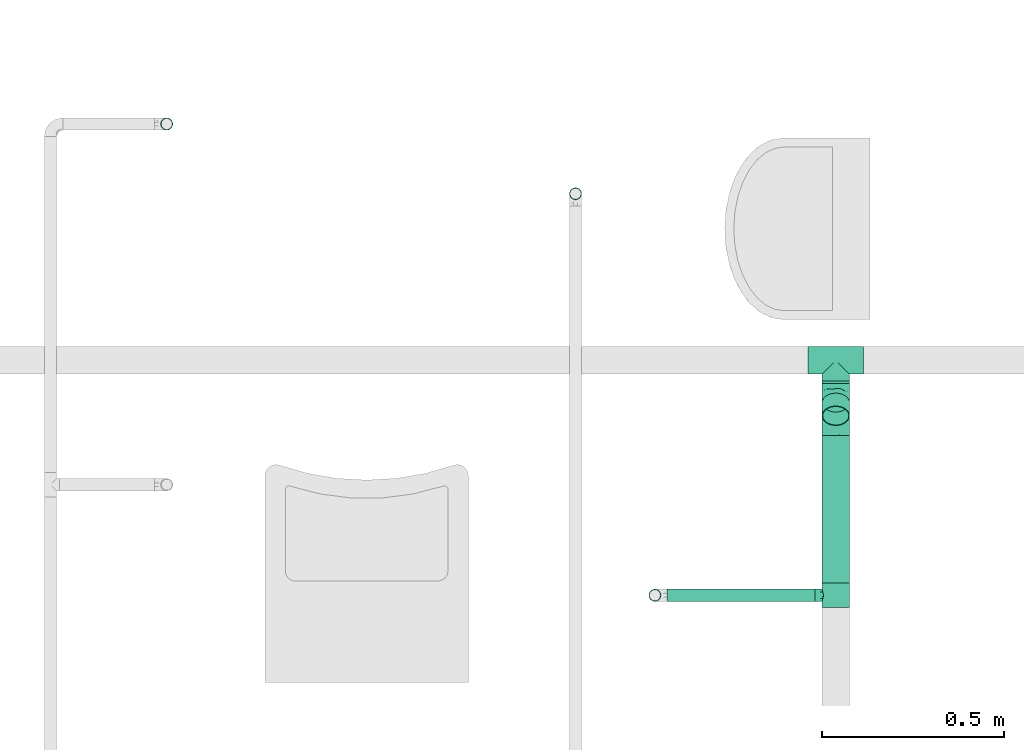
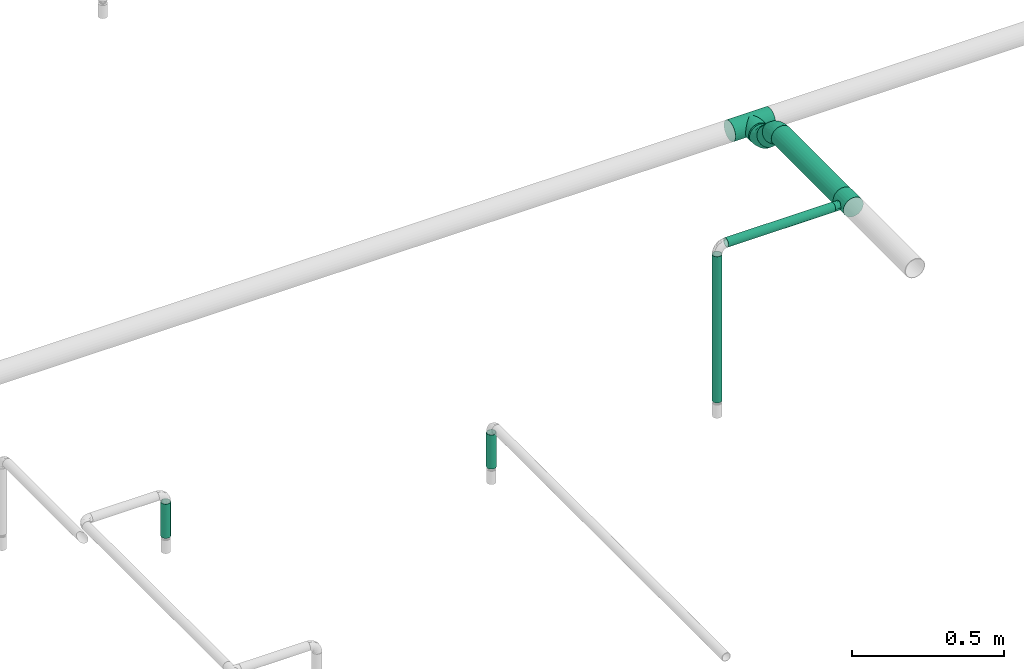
# One storey, part 11 of 95: 7 flow segments, 4 flow fittings.
"""IFC2X3 building model written with IfcOpenShell, lengths in millimetres."""

from ifc_helpers import new_model, entity, si_unit, converted_unit, derived_unit, direction, frame, origin_with_axes, origin_2d_with_axis, place, context, subcontext, project, spatial, hollow_circle, extrude, open_shell, surface_model, source, transform, mapped, type_object, element, save


model = new_model("IFC2X3")

# Units and contexts
model_context = context("Model", 3, precision=0.01, world=frame((0.0, 4.29681676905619e-09, 0.0)), true_north=direction((4.01073788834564e-13, 1.0)))
plan_context = context("Plan", 3, precision=0.01, world=frame((0.0, 4.29681676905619e-09, 0.0)), true_north=direction((4.01073788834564e-13, 1.0)))
body_context = subcontext(model_context, "Body", "Model", "MODEL_VIEW")
ifc_project = project(units=[converted_unit("PLANEANGLEUNIT", "DEGREE", entity("IfcPositiveLengthMeasure", 0.0174532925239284), si_unit("PLANEANGLEUNIT", "RADIAN"), dimensions=[0, 0, 0, 0, 0, 0, 0]), si_unit("AREAUNIT", "SQUARE_METRE"), si_unit("LENGTHUNIT", "METRE", prefix="MILLI"), si_unit("MASSUNIT", "GRAM", prefix="KILO"), si_unit("POWERUNIT", "WATT"), si_unit("PRESSUREUNIT", "PASCAL"), si_unit("FORCEUNIT", "NEWTON", prefix="KILO"), si_unit("ELECTRICVOLTAGEUNIT", "VOLT"), si_unit("ELECTRICCURRENTUNIT", "AMPERE"), si_unit("THERMODYNAMICTEMPERATUREUNIT", "DEGREE_CELSIUS"), si_unit("TIMEUNIT", "SECOND"), si_unit("VOLUMEUNIT", "CUBIC_METRE"), derived_unit("LINEARVELOCITYUNIT", [(si_unit("LENGTHUNIT", "METRE"), 1), (si_unit("TIMEUNIT", "SECOND"), -1)]), derived_unit("VOLUMETRICFLOWRATEUNIT", [(si_unit("VOLUMEUNIT", "CUBIC_METRE"), 1), (si_unit("TIMEUNIT", "SECOND"), -1)]), derived_unit("THERMALTRANSMITTANCEUNIT", [(si_unit("POWERUNIT", "WATT"), 1), (si_unit("THERMODYNAMICTEMPERATUREUNIT", "KELVIN"), -1), (si_unit("AREAUNIT", "SQUARE_METRE"), -1)]), derived_unit("SOUNDPRESSUREUNIT", [(si_unit("PRESSUREUNIT", "PASCAL"), 1)])], contexts=[model_context, plan_context])

# Site, building, storey
site_placement = place(None, frame((0.0, -4.29681676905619e-09, 0.0), z_axis=(0.0, 0.0, 1.0), x_axis=(1.0, 0.0, 0.0)))
site = spatial("IfcSite", under=ifc_project, at=site_placement, CompositionType="ELEMENT")
building_placement = place(site_placement, frame((0.0, 4.29681676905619e-09, 0.0), z_axis=(0.0, 0.0, 1.0), x_axis=(1.0, 0.0, 0.0)))
building = spatial("IfcBuilding", under=site, at=building_placement, Name="mc-building", CompositionType="ELEMENT")
storey_placement = place(building_placement, frame((0.0, 0.0, 210900.0), z_axis=(0.0, 0.0, 1.0), x_axis=(1.0, 0.0, 0.0)))
storey = spatial("IfcBuildingStorey", under=building, at=storey_placement, Name="Nivå F", CompositionType="ELEMENT", Elevation=210900.0)

# Flow fittings
pipe_fitting_type_1 = type_object("IfcPipeFittingType", Name="magi_pipe_fe_tee_centric_90_NOR", PredefinedType="JUNCTION")
shared_shape_1 = source(origin_with_axes(), body_context, "Body", "SurfaceModel", [
    surface_model("IfcShellBasedSurfaceModel", [(-76.2, 19.05, -32.99557), (-76.2, 9.86101, -36.80177), (-76.2, 0.0, -38.1), (-76.2, 26.94077, -26.94077), (-76.2, 36.80177, -9.86101), (-76.2, 32.99557, -19.05), (-76.2, -19.05, -32.99557), (-76.2, -26.94077, -26.94077), (-76.2, -9.86101, -36.80177), (-76.2, 38.1, 0.0), (-76.2, 36.80177, 9.86101), (-76.2, -38.1, 0.0), (-76.2, -36.80177, -9.86101), (-76.2, -32.99557, -19.05), (-76.2, 32.99557, 19.05), (-76.2, -36.80177, 9.86101), (-76.2, 19.05, 32.99557), (-76.2, 26.94077, 26.94077), (-76.2, 0.0, 38.1), (-76.2, 9.86101, 36.80177), (-76.2, -26.94077, 26.94077), (-76.2, -32.99557, 19.05), (-76.2, -9.86101, 36.80177), (-76.2, -19.05, 32.99557), (76.2, 0.0, -38.1), (76.2, -36.80177, 9.86101), (76.2, -38.1, 0.0), (76.2, 36.80177, -9.86101), (76.2, 9.86101, -36.80177), (76.2, 19.05, -32.99557), (76.2, 26.94077, -26.94077), (76.2, 32.99557, -19.05), (76.2, -9.86101, -36.80177), (76.2, -26.94077, -26.94077), (76.2, -19.05, -32.99557), (76.2, -32.99557, -19.05), (76.2, -36.80177, -9.86101), (76.2, 19.05, 32.99557), (76.2, 36.80177, 9.86101), (76.2, 32.99557, 19.05), (76.2, 0.0, 38.1), (76.2, 26.94077, 26.94077), (76.2, 9.86101, 36.80177), (76.2, -32.99557, 19.05), (76.2, -26.94077, 26.94077), (76.2, -19.05, 32.99557), (76.2, -9.86101, 36.80177), (76.2, 38.1, 0.0), (37.03376, -37.03376, 8.95045), (38.1, -38.1, 0.0), (76.2, -34.89867, 14.4555), (35.56052, -35.56052, 12.98504), (34.08727, -34.08727, 17.01964), (18.8305, -18.8305, 33.12132), (76.2, -22.99539, 29.96817), (29.78269, -29.78269, 23.76134), (76.2, -29.96817, 22.99539), (24.5894, -24.5894, 29.10277), (-35.56052, -35.56052, 12.98504), (-76.2, -34.89867, 14.4555), (-34.08727, -34.08727, 17.01964), (-37.03376, -37.03376, 8.95045), (-38.1, -38.1, 0.0), (-18.8305, -18.8305, 33.12132), (-76.2, -22.99539, 29.96817), (-29.78269, -29.78269, 23.76134), (-24.5894, -24.5894, 29.10277), (-76.2, -29.96817, 22.99539), (-12.71924, -12.71924, 35.91422), (6.40528, -6.40528, 37.55772), (12.71924, -12.71924, 35.91422), (0.0, 0.0, 38.1), (-6.40528, -6.40528, 37.55772), (6.40528, -6.40528, -37.55772), (0.0, 0.0, -38.1), (12.71924, -12.71924, -35.91422), (-24.5894, -24.5894, -29.10277), (-76.2, -22.99539, -29.96817), (-35.56052, -35.56052, -12.98504), (-37.03376, -37.03376, -8.95045), (-29.78269, -29.78269, -23.76134), (-76.2, -29.96817, -22.99539), (-6.40528, -6.40528, -37.55772), (-12.71924, -12.71924, -35.91422), (18.8305, -18.8305, -33.12132), (76.2, -22.99539, -29.96817), (24.5894, -24.5894, -29.10277), (-76.2, -34.89867, -14.4555), (-34.08727, -34.08727, -17.01964), (29.78269, -29.78269, -23.76134), (76.2, -29.96817, -22.99539), (37.03376, -37.03376, -8.95045), (35.56052, -35.56052, -12.98504), (34.08727, -34.08727, -17.01964), (76.2, -34.89867, -14.4555), (-18.8305, -18.8305, -33.12132), (0.0, -57.15, -38.1), (9.86101, -57.15, -36.80177), (19.05, -57.15, -32.99557), (26.94077, -57.15, -26.94077), (32.99557, -57.15, -19.05), (36.80177, -57.15, -9.86101), (0.0, -57.15, 38.1), (-26.94077, -57.15, -26.94077), (-9.86101, -57.15, -36.80177), (-19.05, -57.15, -32.99557), (-36.80177, -57.15, -9.86101), (-32.99557, -57.15, -19.05), (-32.99557, -57.15, 19.05), (-36.80177, -57.15, 9.86101), (-38.1, -57.15, 0.0), (19.05, -57.15, 32.99557), (36.80177, -57.15, 9.86101), (32.99557, -57.15, 19.05), (26.94077, -57.15, 26.94077), (9.86101, -57.15, 36.80177), (-26.94077, -57.15, 26.94077), (-19.05, -57.15, 32.99557), (-9.86101, -57.15, 36.80177), (38.1, -57.15, 0.0)], [open_shell([[[0, 1, 2]], [[3, 0, 2]], [[4, 5, 3]], [[6, 7, 8]], [[9, 4, 10]], [[11, 3, 2]], [[4, 3, 11]], [[11, 8, 7]], [[12, 11, 13]], [[7, 13, 11]], [[11, 2, 8]], [[11, 10, 4]], [[14, 10, 11]], [[14, 11, 15]], [[15, 16, 14]], [[17, 14, 16]], [[18, 19, 16]], [[20, 18, 21]], [[15, 21, 18]], [[22, 18, 23]], [[20, 23, 18]], [[18, 16, 15]], [[24, 25, 26]], [[27, 28, 29]], [[30, 31, 27]], [[30, 27, 29]], [[28, 25, 24]], [[32, 33, 34]], [[32, 24, 33]], [[35, 26, 36]], [[26, 35, 33]], [[24, 26, 33]], [[28, 27, 37]], [[27, 38, 37]], [[37, 38, 39]], [[37, 40, 28]], [[37, 39, 41]], [[40, 37, 42]], [[43, 40, 44]], [[25, 28, 43]], [[45, 40, 46]], [[40, 45, 44]], [[40, 43, 28]], [[38, 27, 47]], [[26, 25, 48]], [[48, 49, 26]], [[25, 50, 51]], [[50, 43, 52]], [[45, 53, 54]], [[44, 55, 56]], [[55, 44, 57]], [[43, 55, 52]], [[57, 44, 54]], [[15, 58, 59]], [[60, 59, 58]], [[61, 11, 62]], [[11, 61, 15]], [[15, 61, 58]], [[63, 23, 64]], [[65, 66, 20]], [[65, 67, 21]], [[20, 66, 64]], [[63, 68, 23]], [[65, 21, 60]], [[50, 52, 51]], [[54, 53, 57]], [[46, 40, 69]], [[25, 51, 48]], [[53, 45, 70]], [[69, 70, 46]], [[65, 20, 67]], [[69, 40, 71]], [[70, 45, 46]], [[14, 41, 39]], [[10, 39, 38]], [[16, 42, 37]], [[17, 37, 41]], [[42, 71, 40]], [[9, 38, 47]], [[72, 71, 18]], [[60, 21, 59]], [[72, 22, 68]], [[22, 72, 18]], [[22, 23, 68]], [[71, 19, 18]], [[63, 64, 66]], [[42, 19, 71]], [[16, 19, 42]], [[16, 37, 17]], [[14, 17, 41]], [[10, 14, 39]], [[38, 9, 10]], [[55, 43, 56]], [[3, 31, 30]], [[4, 27, 31]], [[9, 47, 27]], [[0, 30, 29]], [[24, 32, 73]], [[28, 24, 74]], [[73, 32, 75]], [[76, 7, 77]], [[29, 28, 1]], [[32, 34, 75]], [[24, 73, 74]], [[4, 31, 5]], [[0, 3, 30]], [[5, 31, 3]], [[9, 27, 4]], [[12, 78, 79]], [[80, 13, 81]], [[82, 83, 8]], [[74, 82, 2]], [[74, 2, 1]], [[2, 82, 8]], [[83, 6, 8]], [[1, 0, 29]], [[74, 1, 28]], [[84, 85, 86]], [[85, 33, 86]], [[87, 88, 78]], [[84, 34, 85]], [[89, 86, 33]], [[90, 35, 89]], [[34, 84, 75]], [[36, 91, 92]], [[91, 36, 26]], [[93, 94, 92]], [[49, 91, 26]], [[35, 93, 89]], [[76, 77, 95]], [[36, 92, 94]], [[77, 6, 95]], [[7, 76, 80]], [[7, 80, 81]], [[93, 35, 94]], [[95, 6, 83]], [[79, 62, 11]], [[12, 87, 78]], [[88, 87, 13]], [[12, 79, 11]], [[88, 13, 80]], [[89, 33, 90]], [[96, 97, 98]], [[96, 98, 99]], [[99, 100, 101]], [[99, 101, 96]], [[102, 103, 96]], [[104, 103, 105]], [[104, 96, 103]], [[103, 106, 107]], [[103, 108, 106]], [[106, 109, 110]], [[111, 96, 101]], [[112, 113, 101]], [[101, 113, 111]], [[111, 102, 96]], [[111, 113, 114]], [[102, 111, 115]], [[108, 102, 116]], [[109, 106, 108]], [[117, 102, 118]], [[102, 117, 116]], [[102, 108, 103]], [[112, 101, 119]], [[61, 62, 110]], [[109, 61, 110]], [[116, 117, 66]], [[65, 108, 116]], [[60, 109, 108]], [[68, 117, 118]], [[60, 61, 109]], [[66, 65, 116]], [[60, 108, 65]], [[68, 63, 117]], [[102, 71, 72]], [[68, 118, 72]], [[66, 117, 63]], [[72, 118, 102]], [[69, 102, 115]], [[111, 70, 115]], [[113, 112, 52]], [[55, 114, 113]], [[57, 111, 114]], [[48, 112, 119]], [[57, 53, 111]], [[70, 69, 115]], [[53, 70, 111]], [[49, 48, 119]], [[52, 55, 113]], [[48, 52, 112]], [[57, 114, 55]], [[102, 69, 71]], [[49, 119, 91]], [[101, 91, 119]], [[89, 100, 99]], [[99, 98, 86]], [[93, 101, 100]], [[75, 98, 97]], [[93, 91, 101]], [[86, 89, 99]], [[93, 100, 89]], [[75, 84, 98]], [[96, 74, 73]], [[75, 97, 73]], [[86, 98, 84]], [[73, 97, 96]], [[82, 96, 104]], [[105, 83, 104]], [[107, 106, 88]], [[80, 103, 107]], [[76, 105, 103]], [[79, 106, 110]], [[76, 95, 105]], [[83, 82, 104]], [[95, 83, 105]], [[62, 79, 110]], [[88, 80, 107]], [[79, 88, 106]], [[76, 103, 80]], [[96, 82, 74]]])]),
])
flow_fitting_1_placement = place(storey_placement, frame((534600.81021, 441860.92369, 4310.0), z_axis=(0.0, 0.0, -1.0), x_axis=(-1.0, 0.0, 0.0)))
element("IfcFlowFitting", 1, at=flow_fitting_1_placement, inside=storey, type_object=pipe_fitting_type_1, Name="magi_pipe_fe_tee_centric_90_NOR", context=body_context, shape_type="MappedRepresentation", body=[
    mapped(shared_shape_1, transform((0.0, 0.0, 0.0), scale=1.0)),
])
pipe_fitting_type_2 = type_object("IfcPipeFittingType", Name="magi_pipe_fe_elbow_short_001", PredefinedType="BEND")
shared_shape_2 = source(origin_with_axes(), body_context, "Body", "SurfaceModel", [
    surface_model("IfcShellBasedSurfaceModel", [(-31.56307, 19.05, -32.99557), (-31.56307, 9.86101, -36.80177), (-31.56307, 0.0, -38.1), (-31.56307, 26.94077, -26.94077), (-31.56307, 36.80177, -9.86101), (-31.56307, 32.99557, -19.05), (-31.56307, -36.80177, 9.86101), (-31.56307, -9.86101, -36.80177), (-31.56307, -26.94077, -26.94077), (-31.56307, -32.99557, -19.05), (-31.56307, -19.05, -32.99557), (-31.56307, -36.80177, -9.86101), (-31.56307, -38.1, 0.0), (-31.56307, 36.80177, 9.86101), (-31.56307, 26.94077, 26.94077), (-31.56307, 32.99557, 19.05), (-31.56307, 9.86101, 36.80177), (-31.56307, 19.05, 32.99557), (-31.56307, -19.05, 32.99557), (-31.56307, 0.0, 38.1), (-31.56307, -32.99557, 19.05), (-31.56307, -26.94077, 26.94077), (-31.56307, -9.86101, 36.80177), (-31.56307, 38.1, 0.0), (15.34568, 29.29125, -36.80177), (29.29125, 15.34568, -36.80177), (22.31846, 22.31846, -38.1), (3.26846, 41.36846, -26.94077), (8.84808, 35.78885, -32.99557), (-1.01293, 45.64985, -19.05), (-3.70432, 48.34125, -9.86101), (41.36846, 3.26846, -26.94077), (48.34125, -3.70432, 9.86101), (48.34125, -3.70432, -9.86101), (35.78885, 8.84808, -32.99557), (45.64985, -1.01293, 19.05), (45.64985, -1.01293, -19.05), (49.25923, -4.62231, 0.0), (22.31846, 22.31846, 38.1), (15.34568, 29.29125, 36.80177), (-4.62231, 49.25923, 0.0), (-3.70432, 48.34125, 9.86101), (-1.01293, 45.64985, 19.05), (3.26846, 41.36846, 26.94077), (8.84808, 35.78885, 32.99557), (35.78885, 8.84808, 32.99557), (41.36846, 3.26846, 26.94077), (29.29125, 15.34568, 36.80177), (9.70384, -23.42713, 21.23198), (-8.42903, -21.53324, 29.39945), (-12.30295, -29.13928, 22.30902), (-12.72994, -35.62057, 0.0), (-1.98006, -34.20532, 0.0), (-8.1322, -35.10083, 6.50594), (29.30408, -11.90509, 22.30902), (-15.09665, -13.97095, 34.82144), (3.91202, -9.44444, 34.34139), (1.1309, 22.90491, 35.56093), (6.8876, 18.03483, 37.54584), (-11.37114, -3.66836, 37.59524), (-10.82238, 26.12754, 31.10505), (-16.802, 31.95247, 24.04366), (20.5539, 0.79599, 34.82144), (-19.08985, 5.27957, 37.86879), (-14.63922, 15.85445, 35.61813), (14.70349, -24.93596, 15.0155), (-6.83146, -32.96227, 13.23115), (11.82908, -28.55793, 8.28106), (-15.69549, 37.89226, 15.65312), (30.57037, -19.0697, 6.50594), (34.18897, -16.18612, 0.0), (-15.26074, 40.82522, 8.00526), (28.13842, -18.47728, 13.23115), (10.63454, 5.44669, 37.59524), (21.18653, -9.26608, 29.39945), (-16.98283, 41.00019, 0.0), (6.39501, -15.43892, 30.38264), (11.80343, -28.49601, 0.0), (25.58693, -22.7867, 0.0), (-11.37114, -3.66836, -37.59524), (-8.1322, -35.10083, -6.50594), (11.82908, -28.55793, -8.28105), (10.63454, 5.44669, -37.59524), (-16.99589, 15.39655, -35.56093), (-17.62282, 7.88229, -37.54584), (-10.713, 34.47461, -24.04366), (21.18653, -9.26608, -29.39945), (-15.69549, 37.89226, -15.65312), (28.13842, -18.47728, -13.23115), (-18.07682, 39.65877, -8.00526), (-0.8593, 21.56228, -35.61813), (-6.83146, -32.96227, -13.23115), (-10.82238, 26.12754, -31.10505), (-12.30295, -29.13928, -22.30902), (-8.42903, -21.53324, -29.39945), (6.39501, -15.43891, -30.38262), (9.70384, -23.42713, -21.23198), (-15.09665, -13.97095, -34.82144), (20.5539, 0.79599, -34.82144), (3.91202, -9.44444, -34.34139), (30.57037, -19.0697, -6.50594), (9.76534, 17.23178, -37.86879), (7.23544, -28.02932, -15.0155), (29.30408, -11.90509, -22.30902), (-3.62384, 8.7487, -37.96612), (-3.62383, 8.74869, 37.96612)], [open_shell([[[0, 1, 2]], [[3, 0, 2]], [[4, 5, 3]], [[6, 3, 2]], [[6, 2, 7]], [[8, 9, 10]], [[10, 9, 6]], [[11, 12, 9]], [[9, 12, 6]], [[10, 6, 7]], [[3, 6, 4]], [[13, 4, 14]], [[15, 13, 14]], [[16, 17, 14]], [[18, 14, 4]], [[16, 14, 19]], [[20, 21, 6]], [[6, 21, 4]], [[22, 19, 18]], [[18, 4, 21]], [[14, 18, 19]], [[23, 4, 13]], [[24, 25, 26]], [[27, 24, 28]], [[27, 29, 30]], [[24, 27, 25]], [[30, 25, 27]], [[31, 32, 33]], [[31, 34, 35]], [[31, 33, 36]], [[37, 33, 32]], [[38, 34, 25]], [[25, 30, 39]], [[40, 41, 42]], [[42, 43, 30]], [[43, 44, 39]], [[39, 30, 43]], [[39, 38, 25]], [[35, 45, 46]], [[32, 31, 35]], [[45, 38, 47]], [[38, 45, 35]], [[38, 35, 34]], [[30, 40, 42]], [[48, 49, 50]], [[51, 52, 53]], [[18, 21, 49]], [[35, 46, 54]], [[55, 49, 56]], [[50, 49, 21]], [[39, 57, 58]], [[22, 18, 55]], [[19, 22, 59]], [[14, 60, 61]], [[45, 47, 62]], [[63, 16, 19]], [[17, 64, 60]], [[6, 51, 53]], [[44, 43, 60]], [[65, 66, 67]], [[60, 14, 17]], [[21, 20, 50]], [[15, 61, 68]], [[13, 15, 68]], [[32, 69, 70]], [[71, 23, 13]], [[72, 65, 67]], [[66, 53, 67]], [[17, 16, 64]], [[38, 58, 73]], [[46, 45, 74]], [[42, 41, 68]], [[73, 47, 38]], [[48, 50, 66]], [[46, 74, 54]], [[74, 45, 62]], [[20, 66, 50]], [[69, 32, 72]], [[48, 54, 74]], [[63, 64, 16]], [[48, 65, 54]], [[13, 68, 71]], [[20, 6, 66]], [[75, 71, 40]], [[49, 76, 56]], [[41, 71, 68]], [[56, 73, 59]], [[42, 68, 61]], [[56, 62, 73]], [[42, 61, 43]], [[39, 44, 57]], [[57, 60, 64]], [[55, 59, 22]], [[15, 14, 61]], [[72, 32, 35]], [[72, 35, 54]], [[76, 48, 74]], [[43, 61, 60]], [[60, 57, 44]], [[49, 55, 18]], [[59, 55, 56]], [[73, 62, 47]], [[74, 62, 56]], [[6, 12, 51]], [[67, 52, 77]], [[6, 53, 66]], [[52, 67, 53]], [[69, 67, 78]], [[70, 69, 78]], [[70, 37, 32]], [[67, 69, 72]], [[38, 39, 58]], [[59, 63, 19]], [[48, 76, 49]], [[74, 56, 76]], [[40, 71, 41]], [[71, 75, 23]], [[54, 65, 72]], [[66, 65, 48]], [[78, 67, 77]], [[7, 2, 79]], [[52, 80, 81]], [[26, 25, 82]], [[83, 84, 1]], [[5, 85, 3]], [[34, 31, 86]], [[87, 85, 5]], [[36, 33, 88]], [[4, 89, 87]], [[28, 24, 90]], [[11, 80, 51]], [[0, 83, 1]], [[80, 11, 91]], [[27, 92, 85]], [[91, 9, 93]], [[93, 8, 94]], [[8, 10, 94]], [[95, 96, 94]], [[11, 9, 91]], [[8, 93, 9]], [[97, 10, 7]], [[98, 82, 25]], [[30, 29, 87]], [[99, 97, 79]], [[23, 75, 89]], [[96, 93, 94]], [[40, 30, 89]], [[99, 79, 82]], [[27, 28, 92]], [[87, 5, 4]], [[29, 85, 87]], [[97, 94, 10]], [[90, 92, 28]], [[84, 79, 2]], [[92, 90, 83]], [[3, 92, 0]], [[33, 70, 100]], [[101, 24, 26]], [[98, 25, 34]], [[102, 88, 81]], [[31, 103, 86]], [[99, 98, 86]], [[31, 36, 103]], [[104, 101, 82]], [[103, 96, 86]], [[104, 82, 79]], [[100, 70, 78]], [[101, 90, 24]], [[104, 84, 83]], [[80, 91, 81]], [[96, 102, 93]], [[86, 95, 99]], [[36, 88, 103]], [[30, 87, 89]], [[96, 103, 88]], [[29, 27, 85]], [[3, 85, 92]], [[92, 83, 0]], [[104, 83, 90]], [[79, 97, 7]], [[94, 97, 99]], [[86, 98, 34]], [[82, 98, 99]], [[51, 80, 52]], [[51, 12, 11]], [[102, 81, 91]], [[100, 81, 88]], [[81, 78, 77]], [[33, 37, 70]], [[81, 100, 78]], [[33, 100, 88]], [[79, 84, 104]], [[2, 1, 84]], [[82, 101, 26]], [[90, 101, 104]], [[96, 95, 86]], [[94, 99, 95]], [[23, 89, 4]], [[89, 75, 40]], [[93, 102, 91]], [[88, 102, 96]], [[52, 81, 77]], [[59, 105, 63]], [[105, 58, 57]], [[105, 59, 73]], [[105, 57, 64]], [[73, 58, 105]], [[64, 63, 105]]])]),
])
for number, where, z_axis, x_axis, name in (
    (2, (534600.81021, 441765.82816, 4310.0), (-1.0, 0.0, 0.0), (0.0, -1.0, 0.0), "magi_pipe_fe_elbow_short_001"),
    (3, (534600.81021, 441685.82816, 4390.0), (1.0, 0.0, 0.0), (0.0, -0.707106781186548, 0.707106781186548), "magi_pipe_fe_elbow_short_001"),
):
    element("IfcFlowFitting", number, at=place(storey_placement, frame(where, z_axis=z_axis, x_axis=x_axis)), inside=storey, type_object=pipe_fitting_type_2, Name=name, context=body_context, shape_type="MappedRepresentation", body=[
        mapped(shared_shape_2, transform((0.0, 0.0, 0.0), scale=1.0)),
    ])
shared_shape_3 = source(origin_with_axes(), body_context, "Body", "SurfaceModel", [
    surface_model("IfcShellBasedSurfaceModel", [(-33.8, 9.86101, -36.80177), (-33.8, 0.0, -38.1), (-33.8, 36.80177, -9.86101), (-33.8, 19.05, -32.99557), (-33.8, 32.99557, -19.05), (-33.8, 26.94077, -26.94077), (-33.8, -38.1, 0.0), (-33.8, -19.05, -32.99557), (-33.8, -26.94077, -26.94077), (-33.8, -9.86101, -36.80177), (-33.8, -32.99557, -19.05), (-33.8, -36.80177, -9.86101), (-33.8, 38.1, 0.0), (-33.8, 32.99557, 19.05), (-33.8, 36.80177, 9.86101), (-33.8, -36.80177, 9.86101), (-33.8, 19.05, 32.99557), (-33.8, 26.94077, 26.94077), (-33.8, 9.86101, 36.80177), (-33.8, 0.0, 38.1), (-33.8, -26.94077, 26.94077), (-33.8, -32.99557, 19.05), (-33.8, -9.86101, 36.80177), (-33.8, -19.05, 32.99557), (33.8, 0.0, -38.1), (33.8, 9.86101, -36.80177), (33.8, 19.05, -32.99557), (33.8, 26.94077, -26.94077), (33.8, 32.99557, -19.05), (33.8, 36.80177, -9.86101), (33.8, -38.1, 0.0), (33.8, -9.86101, -36.80177), (33.8, -26.94077, -26.94077), (33.8, -19.05, -32.99557), (33.8, -32.99557, -19.05), (33.8, -36.80177, -9.86101), (33.8, 36.80177, 9.86101), (33.8, 32.99557, 19.05), (33.8, 19.05, 32.99557), (33.8, 0.0, 38.1), (33.8, 26.94077, 26.94077), (33.8, 9.86101, 36.80177), (33.8, -26.94077, 26.94077), (33.8, -32.99557, 19.05), (33.8, -36.80177, 9.86101), (33.8, -19.05, 32.99557), (33.8, -9.86101, 36.80177), (33.8, 38.1, 0.0), (33.8, -37.45089, 4.9305), (15.86072, -37.65053, 5.83504), (16.9, -38.1, 0.0), (12.92726, -36.51183, 10.88559), (2.96752, -34.27545, 16.63742), (33.8, -34.89867, 14.4555), (8.48894, -35.18611, 14.61328), (-8.4904, -35.18646, 14.61243), (-33.8, -34.89867, 14.4555), (-15.8612, -37.65073, 5.83372), (-33.8, -37.45089, 4.9305), (-16.9, -38.1, 0.0), (-12.9317, -36.51341, 10.88031), (-2.97221, -34.27585, 16.63658), (-33.8, -37.45089, -4.9305), (-15.8612, -37.65073, -5.83372), (15.86072, -37.65053, -5.83504), (33.8, -37.45089, -4.9305), (-12.9317, -36.51341, -10.88031), (-33.8, -34.89867, -14.4555), (-8.4904, -35.18646, -14.61243), (2.96752, -34.27545, -16.63742), (8.48894, -35.18611, -14.61328), (33.8, -34.89867, -14.4555), (12.92726, -36.51183, -10.88559), (-2.97221, -34.27585, -16.63658), (4.37404, -57.15, -16.32415), (-16.9, -57.15, 0.0), (0.0, -57.15, -16.9), (14.63583, -57.15, -8.45), (8.45, -57.15, -14.63583), (16.32415, -57.15, -4.37404), (11.9501, -57.15, -11.9501), (-11.9501, -57.15, -11.9501), (-8.45, -57.15, -14.63583), (-4.37404, -57.15, -16.32415), (-14.63583, -57.15, -8.45), (-16.32415, -57.15, -4.37404), (16.9, -57.15, 0.0), (8.45, -57.15, 14.63583), (16.32415, -57.15, 4.37404), (14.63583, -57.15, 8.45), (-8.45, -57.15, 14.63583), (11.9501, -57.15, 11.9501), (4.37404, -57.15, 16.32415), (-16.32415, -57.15, 4.37404), (-11.9501, -57.15, 11.9501), (-14.63583, -57.15, 8.45), (0.0, -57.15, 16.9), (-4.37404, -57.15, 16.32415), (-16.3806, -37.87537, 2.91686), (-5.7313, -34.73116, 15.62451), (-0.00235, -34.27565, 16.637), (5.72823, -34.73078, 15.62535), (16.38036, -37.87526, 2.91752), (16.38036, -37.87526, -2.91752), (5.72823, -34.73078, -15.62535), (-0.00235, -34.27565, -16.637), (-5.7313, -34.73116, -15.62451), (-16.3806, -37.87537, -2.91686)], [open_shell([[[0, 1, 2]], [[3, 0, 2]], [[2, 4, 5]], [[3, 2, 5]], [[6, 2, 1]], [[7, 8, 9]], [[8, 1, 9]], [[10, 11, 8]], [[6, 8, 11]], [[8, 6, 1]], [[6, 12, 2]], [[13, 14, 12]], [[15, 13, 6]], [[16, 13, 15]], [[17, 13, 16]], [[18, 16, 19]], [[20, 19, 21]], [[16, 15, 21]], [[22, 19, 23]], [[20, 23, 19]], [[21, 19, 16]], [[12, 6, 13]], [[24, 25, 26]], [[24, 26, 27]], [[27, 28, 29]], [[24, 27, 30]], [[30, 27, 29]], [[31, 32, 33]], [[31, 24, 32]], [[34, 30, 35]], [[30, 34, 32]], [[24, 30, 32]], [[29, 36, 30]], [[36, 37, 30]], [[30, 37, 38]], [[38, 39, 30]], [[38, 37, 40]], [[39, 38, 41]], [[30, 42, 43]], [[44, 30, 43]], [[45, 39, 46]], [[45, 42, 30]], [[30, 39, 45]], [[36, 29, 47]], [[48, 44, 49]], [[50, 30, 48]], [[44, 51, 49]], [[43, 42, 52]], [[50, 48, 49]], [[44, 53, 51]], [[52, 54, 43]], [[42, 20, 52]], [[54, 53, 43]], [[55, 21, 56]], [[57, 58, 59]], [[6, 59, 58]], [[57, 60, 15]], [[55, 61, 21]], [[51, 53, 54]], [[15, 60, 56]], [[21, 61, 20]], [[56, 60, 55]], [[61, 52, 20]], [[57, 15, 58]], [[42, 23, 20]], [[19, 46, 39]], [[22, 45, 46]], [[18, 39, 41]], [[37, 36, 14]], [[17, 38, 40]], [[13, 40, 37]], [[41, 38, 16]], [[12, 36, 47]], [[23, 45, 22]], [[22, 46, 19]], [[18, 19, 39]], [[41, 16, 18]], [[16, 38, 17]], [[13, 17, 40]], [[14, 13, 37]], [[36, 12, 14]], [[45, 23, 42]], [[12, 47, 29]], [[29, 28, 2]], [[59, 62, 63]], [[27, 4, 28]], [[9, 24, 31]], [[0, 26, 25]], [[64, 35, 65]], [[24, 1, 25]], [[31, 33, 7]], [[27, 26, 5]], [[66, 67, 68]], [[4, 2, 28]], [[12, 29, 2]], [[27, 5, 4]], [[3, 26, 0]], [[26, 3, 5]], [[0, 25, 1]], [[9, 1, 24]], [[31, 7, 9]], [[33, 8, 7]], [[32, 34, 69]], [[70, 34, 71]], [[70, 69, 34]], [[35, 72, 71]], [[32, 69, 8]], [[30, 50, 65]], [[64, 72, 35]], [[64, 65, 50]], [[72, 70, 71]], [[73, 68, 10]], [[10, 8, 73]], [[68, 67, 10]], [[73, 8, 69]], [[66, 63, 11]], [[63, 62, 11]], [[62, 59, 6]], [[11, 67, 66]], [[32, 8, 33]], [[74, 75, 76]], [[77, 74, 78]], [[77, 79, 74]], [[77, 78, 80]], [[75, 74, 79]], [[76, 81, 82]], [[82, 83, 76]], [[84, 75, 85]], [[81, 76, 84]], [[75, 84, 76]], [[79, 86, 75]], [[87, 86, 88]], [[87, 88, 89]], [[90, 75, 87]], [[87, 89, 91]], [[90, 87, 92]], [[93, 94, 95]], [[94, 93, 90]], [[90, 96, 97]], [[93, 75, 90]], [[92, 96, 90]], [[87, 75, 86]], [[93, 98, 75]], [[60, 95, 94]], [[93, 95, 57]], [[94, 90, 55]], [[98, 59, 75]], [[57, 95, 60]], [[97, 61, 99]], [[55, 60, 94]], [[96, 52, 100]], [[87, 101, 92]], [[99, 90, 97]], [[99, 55, 90]], [[93, 57, 98]], [[92, 52, 96]], [[49, 89, 88]], [[102, 86, 50]], [[102, 49, 88]], [[91, 89, 51]], [[96, 61, 97]], [[101, 52, 92]], [[87, 54, 101]], [[87, 91, 54]], [[54, 91, 51]], [[51, 89, 49]], [[86, 102, 88]], [[100, 61, 96]], [[79, 103, 86]], [[72, 77, 80]], [[79, 77, 64]], [[80, 78, 70]], [[103, 50, 86]], [[64, 77, 72]], [[74, 69, 104]], [[70, 72, 80]], [[76, 73, 105]], [[82, 106, 83]], [[107, 75, 59]], [[104, 78, 74]], [[104, 70, 78]], [[68, 82, 81]], [[79, 64, 103]], [[63, 84, 85]], [[107, 63, 85]], [[84, 66, 81]], [[76, 69, 74]], [[83, 106, 73]], [[73, 76, 83]], [[68, 106, 82]], [[68, 81, 66]], [[66, 84, 63]], [[75, 107, 85]], [[105, 69, 76]]])]),
])
flow_fitting_2_placement = place(storey_placement, frame((534600.81021, 441213.6625, 4390.0), z_axis=(0.0, 0.0, -1.0), x_axis=(0.0, 1.0, 0.0)))
element("IfcFlowFitting", 4, at=flow_fitting_2_placement, inside=storey, type_object=pipe_fitting_type_1, Name="magi_pipe_fe_tee_centric_90_NOR", context=body_context, shape_type="MappedRepresentation", body=[
    mapped(shared_shape_3, transform((0.0, 0.0, 0.0), scale=1.0)),
])

# Flow segments
pipe_segment_type = type_object("IfcPipeSegmentType", Name="Stålrør normaltykke", PredefinedType="RIGIDSEGMENT")
shared_shape_4 = source(origin_with_axes(), body_context, "Body", "SweptSolid", [
    extrude(hollow_circle(Radius=38.0, WallThickness=2.0, at=origin_2d_with_axis()), frame((0.0, 0.0, 0.0), z_axis=(1.0, 0.0, 0.0), x_axis=(0.0, 1.0, 0.0)), (0.0, 0.0, 1.0), 6.4),
])
flow_segment_1_placement = place(storey_placement, frame((534600.81021, 441803.77369, 4310.0), z_axis=(0.0, 0.0, 1.0), x_axis=(0.0, -1.0, 0.0)))
element("IfcFlowSegment", 5, at=flow_segment_1_placement, inside=storey, type_object=pipe_segment_type, Name="Stålrør normaltykke", context=body_context, shape_type="MappedRepresentation", body=[
    mapped(shared_shape_4, transform((0.0, 0.0, 0.0), scale=1.0)),
])
shared_shape_5 = source(origin_with_axes(), body_context, "Body", "SweptSolid", [
    extrude(hollow_circle(Radius=38.0, WallThickness=2.0, at=origin_2d_with_axis()), frame((0.0, 0.0, 0.0), z_axis=(1.0, 0.0, 0.0), x_axis=(0.0, 1.0, 0.0)), (0.0, 0.0, 1.0), 50.0),
])
flow_segment_2_placement = place(storey_placement, frame((534600.81021, 441743.5097, 4332.31846000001), z_axis=(0.0, 0.707106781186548, 0.707106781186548), x_axis=(0.0, -0.707106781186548, 0.707106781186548)))
element("IfcFlowSegment", 6, at=flow_segment_2_placement, inside=storey, type_object=pipe_segment_type, Name="Stålrør normaltykke", context=body_context, shape_type="MappedRepresentation", body=[
    mapped(shared_shape_5, transform((0.0, 0.0, 0.0), scale=1.0)),
])
shared_shape_6 = source(origin_with_axes(), body_context, "Body", "SweptSolid", [
    extrude(hollow_circle(Radius=16.9, WallThickness=2.0, at=origin_2d_with_axis()), frame((0.0, 0.0, 0.0), z_axis=(1.0, 0.0, 0.0), x_axis=(0.0, 1.0, 0.0)), (0.0, 0.0, 1.0), 407.1),
])
flow_segment_3_placement = place(storey_placement, frame((534136.56021, 441213.6625, 4390.0), z_axis=(0.0, 0.0, 1.0), x_axis=(1.0, 0.0, 0.0)))
element("IfcFlowSegment", 7, at=flow_segment_3_placement, inside=storey, type_object=pipe_segment_type, Name="Stålrør normaltykke", context=body_context, shape_type="MappedRepresentation", body=[
    mapped(shared_shape_6, transform((0.0, 0.0, 0.0), scale=1.0)),
])
shared_shape_7 = source(origin_with_axes(), body_context, "Body", "SweptSolid", [
    extrude(hollow_circle(Radius=16.9, WallThickness=2.0, at=origin_2d_with_axis()), frame((0.0, 0.0, 0.0), z_axis=(1.0, 0.0, 0.0), x_axis=(0.0, 1.0, 0.0)), (0.0, 0.0, 1.0), 586.9),
])
flow_segment_4_placement = place(storey_placement, frame((534102.76021, 441213.6625, 4356.20000000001), z_axis=(0.0, -1.0, 0.0), x_axis=(0.0, 0.0, -1.0)))
element("IfcFlowSegment", 8, at=flow_segment_4_placement, inside=storey, type_object=pipe_segment_type, Name="Stålrør normaltykke", context=body_context, shape_type="MappedRepresentation", body=[
    mapped(shared_shape_7, transform((0.0, 0.0, 0.0), scale=1.0)),
])
shared_shape_8 = source(origin_with_axes(), body_context, "Body", "SweptSolid", [
    extrude(hollow_circle(Radius=38.0, WallThickness=2.0, at=origin_2d_with_axis()), frame((0.0, 0.0, 0.0), z_axis=(1.0, 0.0, 0.0), x_axis=(0.0, 1.0, 0.0)), (0.0, 0.0, 1.0), 406.8),
])
flow_segment_5_placement = place(storey_placement, frame((534600.81021, 441654.26509, 4390.0), z_axis=(0.0, 0.0, 1.0), x_axis=(0.0, -1.0, 0.0)))
element("IfcFlowSegment", 9, at=flow_segment_5_placement, inside=storey, type_object=pipe_segment_type, Name="Stålrør normaltykke", context=body_context, shape_type="MappedRepresentation", body=[
    mapped(shared_shape_8, transform((0.0, 0.0, 0.0), scale=1.0)),
])
shared_shape_9 = source(origin_with_axes(), body_context, "Body", "SweptSolid", [
    extrude(hollow_circle(Radius=16.9, WallThickness=2.0, at=origin_2d_with_axis()), frame((0.0, 0.0, 0.0), z_axis=(1.0, 0.0, 0.0), x_axis=(0.0, 1.0, 0.0)), (0.0, 0.0, 1.0), 137.0),
])
for number, where, z_axis, x_axis in (
    (10, (532758.43666, 442511.46652, 3046.35000000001), (0.0, -1.0, 0.0), (0.0, 0.0, -1.0)),
    (11, (533884.1403, 442319.41048, 3046.35000000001), (0.0, -1.0, 0.0), (0.0, 0.0, -1.0)),
):
    element("IfcFlowSegment", number, at=place(storey_placement, frame(where, z_axis=z_axis, x_axis=x_axis)), inside=storey, type_object=pipe_segment_type, Name="Stålrør normaltykke", context=body_context, shape_type="MappedRepresentation", body=[
        mapped(shared_shape_9, transform((0.0, 0.0, 0.0), scale=1.0)),
    ])

save(model, "model.ifc")
